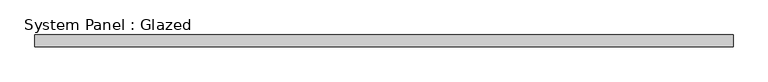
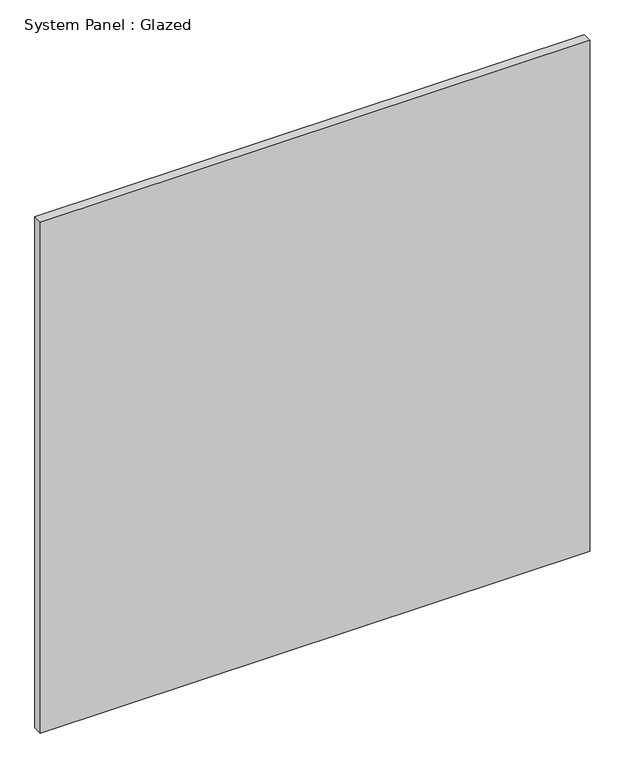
"""IFC4 building model written with IfcOpenShell, lengths in millimetres: plate geometry, System Panel : Glazed."""

from ifc_helpers import new_model, si_unit, origin, origin_with_axes, place, context, project, spatial, polyline, outline, extrude, source, transform, mapped, element, save


def system_panel_glazed_a417ca2b(model_context):
    return source(origin(), model_context, "Body", "SweptSolid", [
        extrude(outline(polyline([(737.0, 24.5), (-737.0, 24.5), (-737.0, 49.5), (737.0, 49.5), (737.0, 24.5)])), origin_with_axes(), (0.0, 0.0, 1.0), 1449.0),
    ])


if __name__ == "__main__":
    model = new_model("IFC4")
    model_context = context("Model", 3, world=origin())
    ifc_project = project(units=[si_unit("LENGTHUNIT", "METRE", prefix="MILLI")], contexts=[model_context])
    site = spatial("IfcSite", under=ifc_project)
    building = spatial("IfcBuilding", under=site)
    placement = place(None, origin())
    system_panel_glazed_shape = system_panel_glazed_a417ca2b(model_context)
    element("IfcPlate", 1, ObjectType="System Panel : Glazed", at=placement, inside=building, context=model_context, shape_type="MappedRepresentation", body=[
        mapped(system_panel_glazed_shape, transform((0.0, 0.0, 0.0), x_axis=(1.0, 0.0, 0.0), y_axis=(0.0, 1.0, 0.0), z_axis=(0.0, 0.0, 1.0))),
    ])
    save(model, "model.ifc")
